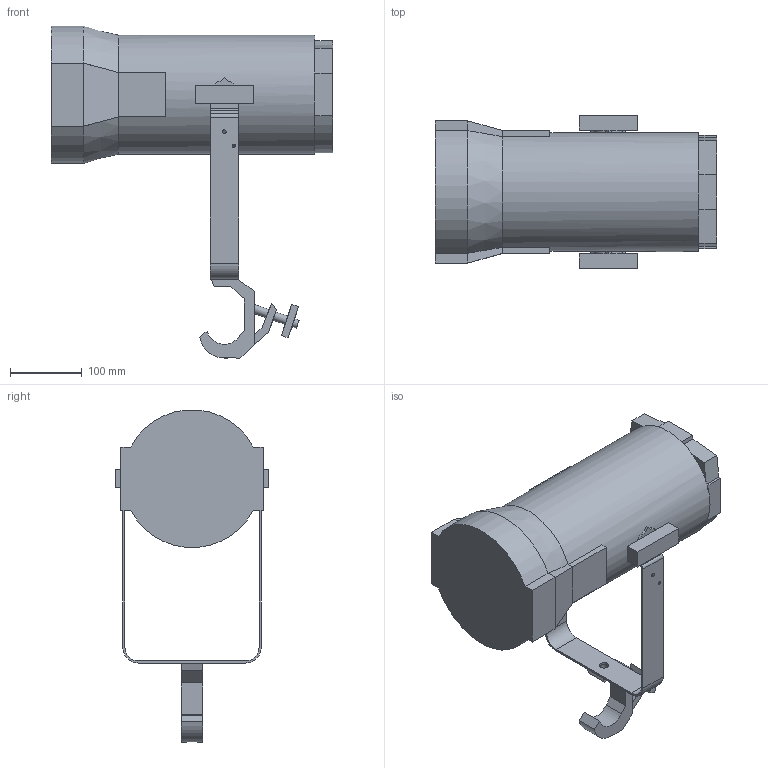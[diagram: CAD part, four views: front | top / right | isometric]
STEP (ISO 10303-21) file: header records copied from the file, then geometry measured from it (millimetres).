
FILE_DESCRIPTION(/* description */ ('Unknown'),/* implementation_level */ '2;1');
FILE_NAME(/* name */ '3D_ParFect150',/* time_stamp */ '2018-06-22T14:49:03+02:00',/* author */ ('Unknown'),/* organization */ ('Unknown'),/* preprocessor_version */ 'ST-DEVELOPER v16.7',/* originating_system */ 'DEX',/* authorisation */ $);
FILE_SCHEMA (('AUTOMOTIVE_DESIGN {1 0 10303 214 3 1 1}'));
Length unit declared in the file: millimetre
Products named in the file (5): 3D_ParFect150_with_HALO; PF150_housing; Sroub; 11014553 Držák A; Clamp Doughty Slimline QT
Assembly tree (5 placements, depth 2):
  3D_ParFect150_with_HALO
    PF150_housing
    Sroub  x2
    11014553 Držák A
    Clamp Doughty Slimline QT
Bounding box: 392.02 x 212.6 x 462.74 mm (x, y, z)
Volume: 9389687.5 mm3; surface area: 378628.7 mm2
Topology: 5 solids, 5 shells, 159 faces, 407 edges, 263 vertices
Faces by surface type: plane 116, cylinder 41, cone 2
Full cylindrical faces by diameter (mm): 4.5 x2, 5.1 x2, 8.5 x4, 12 x4, 13 x1, 166 x1
Entity records: 4629 total; most frequent: DIRECTION 784, CARTESIAN_POINT 775, ORIENTED_EDGE 744, EDGE_CURVE 372, LINE 274, VECTOR 274, AXIS2_PLACEMENT_3D 255, VERTEX_POINT 246
